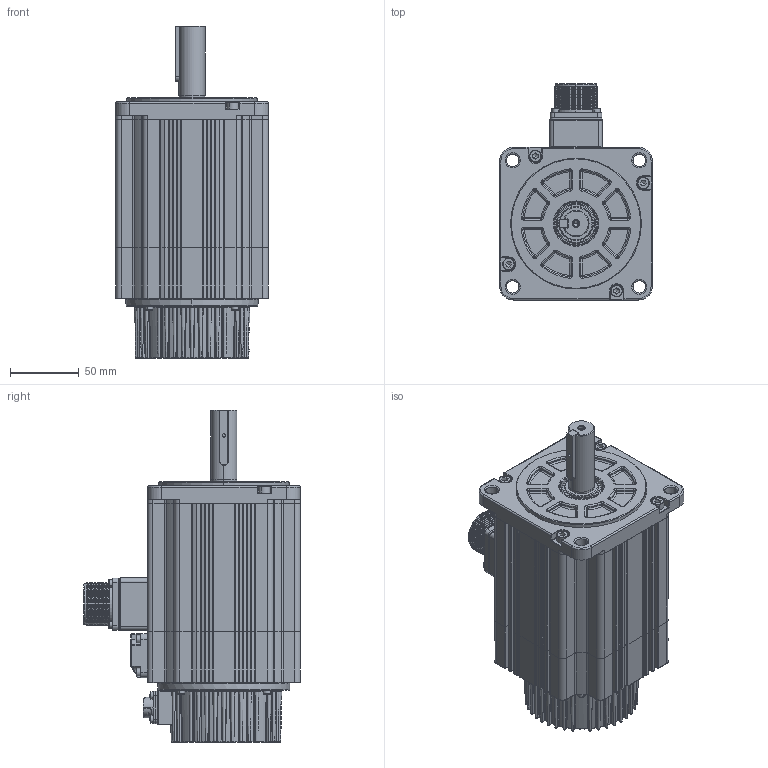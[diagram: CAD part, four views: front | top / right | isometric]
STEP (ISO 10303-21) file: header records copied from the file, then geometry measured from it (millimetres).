
FILE_DESCRIPTION (( 'STEP AP214' ), '1' );
FILE_NAME ('93³¤»ú¿Ç ´øÉ²³µ.STEP', '2021-08-10T11:02:41', ( '' ), ( '' ), 'SwSTEP 2.0', 'SolidWorks 2014', '' );
FILE_SCHEMA (( 'AUTOMOTIVE_DESIGN' ));
Length unit declared in the file: millimetre
Products named in the file (18): 蚐猾 D00B999YF9-TC 25-32-4-110#; 囀鞠褒 M3X8; 110#綴傷裔-价陬遴; 110#陔粣-拸价陬; 囀鞠褒 ISO 4762 M5 x 18; 囀鞠褒 M3X30; 价陬揤盄裔200912; 110#隅赽郪璃; 雄薯瑤脣釱200909; 110#儂褲; SC瑤諾脣芛 MS3102A20-18P; 瑤諾脣芛 SC-CMV1-R10P-1; 囀鞠褒 M3X10; 坋趼羞攫芛蹟隊M3℅8; SC晤鎢ん欶200908_9郋; 普通型 平键   C 6x6x40 带M3起键螺钉孔-1; 110#ヶ傷裔; 93酗儂褲 湍价陬
Assembly tree (36 placements, depth 3):
  93酗儂褲 湍价陬
    110#隅赽郪璃
      110#儂褲
      雄薯瑤脣釱200909
      110#ヶ傷裔
    蚐猾 D00B999YF9-TC 25-32-4-110#
    110#陔粣-拸价陬
    普通型 平键   C 6x6x40 带M3起键螺钉孔-1
    瑤諾脣芛 SC-CMV1-R10P-1
    SC晤鎢ん欶200908_9郋
    囀鞠褒 M3X30  x4
    囀鞠褒 M3X10  x4
    坋趼羞攫芛蹟隊M3℅8  x4
    囀鞠褒 ISO 4762 M5 x 18  x8
    110#綴傷裔-价陬遴
    SC瑤諾脣芛 MS3102A20-18P
    价陬揤盄裔200912
    囀鞠褒 M3X8  x4
Bounding box: 111 x 157.3 x 241.2 mm (x, y, z)
Volume: 656138.3 mm3; surface area: 271302.3 mm2
Topology: 37 solids, 37 shells, 3525 faces, 8352 edges, 4795 vertices
Faces by surface type: cylinder 1283, plane 856, torus 516, cone 349, bspline 331, sphere 190
Entity records: 99027 total; most frequent: CARTESIAN_POINT 26340, DIRECTION 15302, ORIENTED_EDGE 13964, EDGE_CURVE 6982, AXIS2_PLACEMENT_3D 6356, VERTEX_POINT 4102, CIRCLE 3562, EDGE_LOOP 3260
